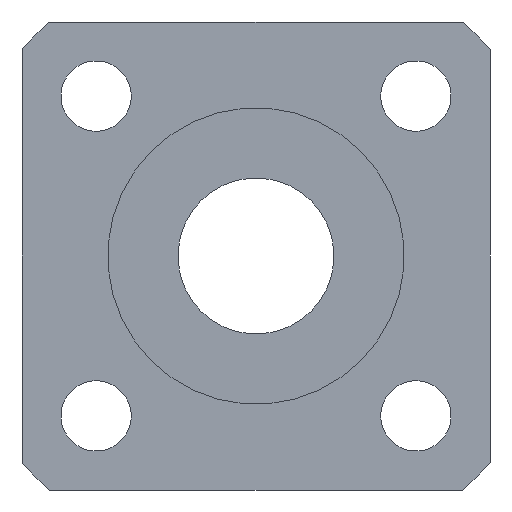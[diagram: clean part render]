
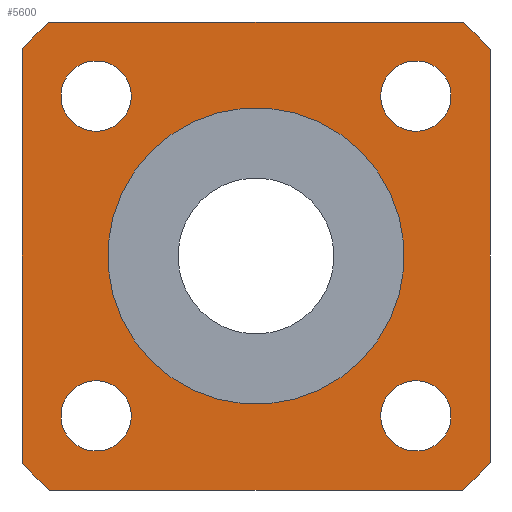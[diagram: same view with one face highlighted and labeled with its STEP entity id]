
A CAD part, left-side view. The second image highlights one B-rep face of the part: STEP entity #5600.
In plain terms, the highlighted planar face has unit normal (-1, 0, 0).
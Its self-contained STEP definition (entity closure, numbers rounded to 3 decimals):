
#109=CIRCLE('',#5942,20.);
#110=CIRCLE('',#5944,20.);
#111=CIRCLE('',#5946,20.);
#121=CIRCLE('',#5961,9.5);
#123=CIRCLE('',#5966,20.);
#124=CIRCLE('',#5968,2.25);
#125=CIRCLE('',#5969,2.25);
#126=CIRCLE('',#5970,2.25);
#127=CIRCLE('',#5971,2.25);
#331=LINE('',#8866,#986);
#332=LINE('',#8867,#987);
#333=LINE('',#8868,#988);
#334=LINE('',#8869,#989);
#986=VECTOR('',#6511,1000.);
#987=VECTOR('',#6512,1000.);
#988=VECTOR('',#6513,1000.);
#989=VECTOR('',#6514,1000.);
#1724=ORIENTED_EDGE('',*,*,#3335,.T.);
#1725=ORIENTED_EDGE('',*,*,#3315,.F.);
#1726=ORIENTED_EDGE('',*,*,#3336,.T.);
#1727=ORIENTED_EDGE('',*,*,#3318,.F.);
#1728=ORIENTED_EDGE('',*,*,#3337,.T.);
#1729=ORIENTED_EDGE('',*,*,#3332,.F.);
#1730=ORIENTED_EDGE('',*,*,#3338,.T.);
#1731=ORIENTED_EDGE('',*,*,#3313,.F.);
#1732=ORIENTED_EDGE('',*,*,#3339,.T.);
#1733=ORIENTED_EDGE('',*,*,#3340,.T.);
#1734=ORIENTED_EDGE('',*,*,#3341,.T.);
#1735=ORIENTED_EDGE('',*,*,#3342,.T.);
#1736=ORIENTED_EDGE('',*,*,#3330,.F.);
#3313=EDGE_CURVE('',#4121,#4122,#109,.T.);
#3315=EDGE_CURVE('',#4123,#4124,#110,.T.);
#3318=EDGE_CURVE('',#4125,#4126,#111,.T.);
#3330=EDGE_CURVE('',#4136,#4136,#121,.F.);
#3332=EDGE_CURVE('',#4138,#4139,#123,.T.);
#3335=EDGE_CURVE('',#4121,#4124,#331,.T.);
#3336=EDGE_CURVE('',#4123,#4126,#332,.T.);
#3337=EDGE_CURVE('',#4125,#4139,#333,.T.);
#3338=EDGE_CURVE('',#4138,#4122,#334,.T.);
#3339=EDGE_CURVE('',#4140,#4140,#124,.T.);
#3340=EDGE_CURVE('',#4141,#4141,#125,.T.);
#3341=EDGE_CURVE('',#4142,#4142,#126,.T.);
#3342=EDGE_CURVE('',#4143,#4143,#127,.T.);
#4121=VERTEX_POINT('',#8814);
#4122=VERTEX_POINT('',#8816);
#4123=VERTEX_POINT('',#8820);
#4124=VERTEX_POINT('',#8821);
#4125=VERTEX_POINT('',#8826);
#4126=VERTEX_POINT('',#8827);
#4136=VERTEX_POINT('',#8854);
#4138=VERTEX_POINT('',#8861);
#4139=VERTEX_POINT('',#8862);
#4140=VERTEX_POINT('',#8871);
#4141=VERTEX_POINT('',#8873);
#4142=VERTEX_POINT('',#8875);
#4143=VERTEX_POINT('',#8877);
#4597=EDGE_LOOP('',(#1724,#1725,#1726,#1727,#1728,#1729,#1730,#1731));
#4598=EDGE_LOOP('',(#1732));
#4599=EDGE_LOOP('',(#1733));
#4600=EDGE_LOOP('',(#1734));
#4601=EDGE_LOOP('',(#1735));
#4602=EDGE_LOOP('',(#1736));
#4998=FACE_BOUND('',#4597,.T.);
#4999=FACE_BOUND('',#4598,.T.);
#5000=FACE_BOUND('',#4599,.T.);
#5001=FACE_BOUND('',#4600,.T.);
#5002=FACE_BOUND('',#4601,.T.);
#5003=FACE_BOUND('',#4602,.T.);
#5344=PLANE('',#5967);
#5600=ADVANCED_FACE('',(#4998,#4999,#5000,#5001,#5002,#5003),#5344,.F.);
#5942=AXIS2_PLACEMENT_3D('',#8815,#6452,#6453);
#5944=AXIS2_PLACEMENT_3D('',#8819,#6457,#6458);
#5946=AXIS2_PLACEMENT_3D('',#8825,#6463,#6464);
#5961=AXIS2_PLACEMENT_3D('',#8853,#6495,#6496);
#5966=AXIS2_PLACEMENT_3D('',#8860,#6505,#6506);
#5967=AXIS2_PLACEMENT_3D('',#8865,#6509,#6510);
#5968=AXIS2_PLACEMENT_3D('',#8870,#6515,#6516);
#5969=AXIS2_PLACEMENT_3D('',#8872,#6517,#6518);
#5970=AXIS2_PLACEMENT_3D('',#8874,#6519,#6520);
#5971=AXIS2_PLACEMENT_3D('',#8876,#6521,#6522);
#6452=DIRECTION('',(1.,0.,0.));
#6453=DIRECTION('',(0.,0.707,-0.707));
#6457=DIRECTION('',(1.,0.,0.));
#6458=DIRECTION('',(0.,0.707,-0.707));
#6463=DIRECTION('',(1.,0.,0.));
#6464=DIRECTION('',(0.,0.707,-0.707));
#6495=DIRECTION('',(1.,0.,0.));
#6496=DIRECTION('',(0.,0.707,-0.707));
#6505=DIRECTION('',(1.,0.,0.));
#6506=DIRECTION('',(0.,0.707,-0.707));
#6509=DIRECTION('',(1.,0.,0.));
#6510=DIRECTION('',(0.,0.707,-0.707));
#6511=DIRECTION('',(0.,0.,1.));
#6512=DIRECTION('',(0.,1.,0.));
#6513=DIRECTION('',(0.,0.,-1.));
#6514=DIRECTION('',(0.,-1.,0.));
#6515=DIRECTION('',(1.,0.,0.));
#6516=DIRECTION('',(0.,0.707,-0.707));
#6517=DIRECTION('',(1.,0.,0.));
#6518=DIRECTION('',(0.,0.707,-0.707));
#6519=DIRECTION('',(1.,0.,0.));
#6520=DIRECTION('',(0.,0.707,-0.707));
#6521=DIRECTION('',(1.,0.,0.));
#6522=DIRECTION('',(0.,0.707,-0.707));
#8814=CARTESIAN_POINT('',(8.5,-15.,-13.229));
#8815=CARTESIAN_POINT('',(8.5,0.,0.));
#8816=CARTESIAN_POINT('',(8.5,-13.229,-15.));
#8819=CARTESIAN_POINT('',(8.5,0.,0.));
#8820=CARTESIAN_POINT('',(8.5,-13.229,15.));
#8821=CARTESIAN_POINT('',(8.5,-15.,13.229));
#8825=CARTESIAN_POINT('',(8.5,0.,0.));
#8826=CARTESIAN_POINT('',(8.5,15.,13.229));
#8827=CARTESIAN_POINT('',(8.5,13.229,15.));
#8853=CARTESIAN_POINT('',(8.5,0.,0.));
#8854=CARTESIAN_POINT('',(8.5,6.718,-6.718));
#8860=CARTESIAN_POINT('',(8.5,0.,0.));
#8861=CARTESIAN_POINT('',(8.5,13.229,-15.));
#8862=CARTESIAN_POINT('',(8.5,15.,-13.229));
#8865=CARTESIAN_POINT('',(8.5,0.,0.));
#8866=CARTESIAN_POINT('',(8.5,-15.,15.));
#8867=CARTESIAN_POINT('',(8.5,15.,15.));
#8868=CARTESIAN_POINT('',(8.5,15.,-15.));
#8869=CARTESIAN_POINT('',(8.5,-15.,-15.));
#8870=CARTESIAN_POINT('',(8.5,10.253,-10.253));
#8871=CARTESIAN_POINT('',(8.5,11.844,-11.844));
#8872=CARTESIAN_POINT('',(8.5,-10.253,-10.253));
#8873=CARTESIAN_POINT('',(8.5,-8.662,-11.844));
#8874=CARTESIAN_POINT('',(8.5,-10.253,10.253));
#8875=CARTESIAN_POINT('',(8.5,-8.662,8.662));
#8876=CARTESIAN_POINT('',(8.5,10.253,10.253));
#8877=CARTESIAN_POINT('',(8.5,11.844,8.662));
